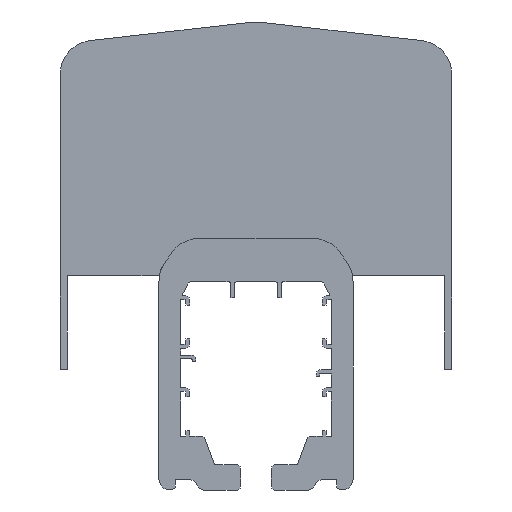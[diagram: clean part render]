
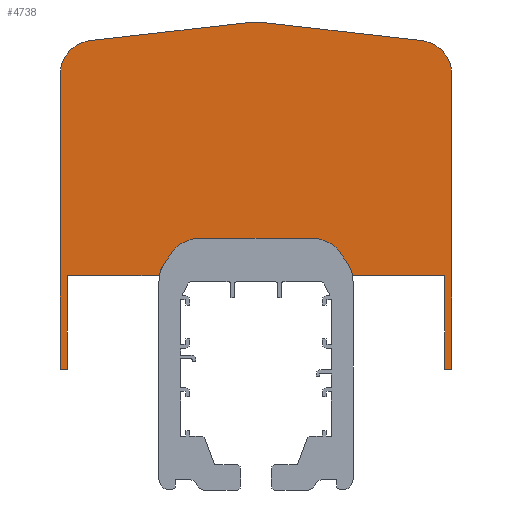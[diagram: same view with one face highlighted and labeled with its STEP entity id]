
A CAD part, front view. The second image highlights one B-rep face of the part: STEP entity #4738.
In plain terms, the highlighted planar face has unit normal (0, -1, 0).
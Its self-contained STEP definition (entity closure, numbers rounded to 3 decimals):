
#21=CIRCLE('',#4746,9.);
#23=CIRCLE('',#4751,9.);
#28=CIRCLE('',#4764,9.);
#151=CIRCLE('',#5038,9.1);
#153=CIRCLE('',#5045,9.5);
#155=CIRCLE('',#5049,11.251);
#157=CIRCLE('',#5053,9.5);
#1241=ORIENTED_EDGE('',*,*,#1302,.F.);
#1242=ORIENTED_EDGE('',*,*,#1752,.T.);
#1243=ORIENTED_EDGE('',*,*,#1755,.T.);
#1244=ORIENTED_EDGE('',*,*,#1758,.T.);
#1245=ORIENTED_EDGE('',*,*,#1761,.T.);
#1246=ORIENTED_EDGE('',*,*,#1764,.T.);
#1247=ORIENTED_EDGE('',*,*,#1767,.T.);
#1248=ORIENTED_EDGE('',*,*,#1770,.T.);
#1249=ORIENTED_EDGE('',*,*,#1773,.T.);
#1250=ORIENTED_EDGE('',*,*,#1776,.T.);
#1251=ORIENTED_EDGE('',*,*,#1737,.T.);
#1252=ORIENTED_EDGE('',*,*,#1741,.T.);
#1253=ORIENTED_EDGE('',*,*,#1744,.T.);
#1254=ORIENTED_EDGE('',*,*,#1747,.T.);
#1255=ORIENTED_EDGE('',*,*,#1750,.T.);
#1256=ORIENTED_EDGE('',*,*,#1272,.T.);
#1257=ORIENTED_EDGE('',*,*,#1275,.T.);
#1258=ORIENTED_EDGE('',*,*,#1262,.T.);
#1259=ORIENTED_EDGE('',*,*,#1266,.T.);
#1260=ORIENTED_EDGE('',*,*,#1269,.T.);
#1262=EDGE_CURVE('',#1780,#1779,#2123,.T.);
#1266=EDGE_CURVE('',#1779,#1783,#21,.T.);
#1269=EDGE_CURVE('',#1783,#1785,#2128,.T.);
#1272=EDGE_CURVE('',#1788,#1787,#2131,.T.);
#1275=EDGE_CURVE('',#1787,#1780,#23,.T.);
#1302=EDGE_CURVE('',#1809,#1785,#28,.F.);
#1737=EDGE_CURVE('',#2096,#2097,#2468,.T.);
#1741=EDGE_CURVE('',#2097,#2100,#2472,.T.);
#1744=EDGE_CURVE('',#2100,#2102,#2475,.T.);
#1747=EDGE_CURVE('',#2102,#2104,#2478,.T.);
#1750=EDGE_CURVE('',#2104,#1788,#151,.T.);
#1752=EDGE_CURVE('',#1809,#2106,#2481,.T.);
#1755=EDGE_CURVE('',#2106,#2108,#2484,.T.);
#1758=EDGE_CURVE('',#2108,#2110,#2487,.T.);
#1761=EDGE_CURVE('',#2110,#2112,#2490,.T.);
#1764=EDGE_CURVE('',#2112,#2114,#153,.T.);
#1767=EDGE_CURVE('',#2114,#2116,#2494,.T.);
#1770=EDGE_CURVE('',#2116,#2118,#155,.T.);
#1773=EDGE_CURVE('',#2118,#2120,#2498,.T.);
#1776=EDGE_CURVE('',#2120,#2096,#157,.T.);
#1779=VERTEX_POINT('',#6068);
#1780=VERTEX_POINT('',#6070);
#1783=VERTEX_POINT('',#6077);
#1785=VERTEX_POINT('',#6083);
#1787=VERTEX_POINT('',#6089);
#1788=VERTEX_POINT('',#6091);
#1809=VERTEX_POINT('',#6150);
#2096=VERTEX_POINT('',#7020);
#2097=VERTEX_POINT('',#7021);
#2100=VERTEX_POINT('',#7029);
#2102=VERTEX_POINT('',#7035);
#2104=VERTEX_POINT('',#7041);
#2106=VERTEX_POINT('',#7050);
#2108=VERTEX_POINT('',#7056);
#2110=VERTEX_POINT('',#7062);
#2112=VERTEX_POINT('',#7068);
#2114=VERTEX_POINT('',#7074);
#2116=VERTEX_POINT('',#7080);
#2118=VERTEX_POINT('',#7086);
#2120=VERTEX_POINT('',#7092);
#2123=LINE('',#6069,#2502);
#2128=LINE('',#6084,#2507);
#2131=LINE('',#6090,#2510);
#2468=LINE('',#7019,#2847);
#2472=LINE('',#7028,#2851);
#2475=LINE('',#7034,#2854);
#2478=LINE('',#7040,#2857);
#2481=LINE('',#7049,#2860);
#2484=LINE('',#7055,#2863);
#2487=LINE('',#7061,#2866);
#2490=LINE('',#7067,#2869);
#2494=LINE('',#7079,#2873);
#2498=LINE('',#7091,#2877);
#2502=VECTOR('',#5062,1000.);
#2507=VECTOR('',#5075,1000.);
#2510=VECTOR('',#5080,1000.);
#2847=VECTOR('',#5985,1000.);
#2851=VECTOR('',#5991,1000.);
#2854=VECTOR('',#5996,1000.);
#2857=VECTOR('',#6001,1000.);
#2860=VECTOR('',#6012,1000.);
#2863=VECTOR('',#6017,1000.);
#2866=VECTOR('',#6022,1000.);
#2869=VECTOR('',#6027,1000.);
#2873=VECTOR('',#6039,1000.);
#2877=VECTOR('',#6051,1000.);
#3054=EDGE_LOOP('',(#1241,#1242,#1243,#1244,#1245,#1246,#1247,#1248,#1249,
#1250,#1251,#1252,#1253,#1254,#1255,#1256,#1257,#1258,#1259,#1260));
#3229=FACE_BOUND('',#3054,.T.);
#3336=PLANE('',#5056);
#4738=ADVANCED_FACE('',(#3229),#3336,.F.);
#4746=AXIS2_PLACEMENT_3D('',#6078,#5068,#5069);
#4751=AXIS2_PLACEMENT_3D('',#6096,#5085,#5086);
#4764=AXIS2_PLACEMENT_3D('',#6151,#5133,#5134);
#5038=AXIS2_PLACEMENT_3D('',#7046,#6006,#6007);
#5045=AXIS2_PLACEMENT_3D('',#7073,#6032,#6033);
#5049=AXIS2_PLACEMENT_3D('',#7085,#6044,#6045);
#5053=AXIS2_PLACEMENT_3D('',#7097,#6056,#6057);
#5056=AXIS2_PLACEMENT_3D('',#7100,#6062,#6063);
#5062=DIRECTION('',(1.,0.,0.));
#5068=DIRECTION('',(0.,1.,0.));
#5069=DIRECTION('',(1.,0.,0.));
#5075=DIRECTION('',(0.588,0.,-0.809));
#5080=DIRECTION('',(0.588,0.,0.809));
#5085=DIRECTION('',(0.,1.,0.));
#5086=DIRECTION('',(1.,0.,0.));
#5133=DIRECTION('',(0.,1.,0.));
#5134=DIRECTION('',(0.,0.,1.));
#5985=DIRECTION('',(0.,0.,-1.));
#5991=DIRECTION('',(1.,0.,0.));
#5996=DIRECTION('',(0.,0.,1.));
#6001=DIRECTION('',(1.,0.,0.));
#6006=DIRECTION('',(0.,1.,0.));
#6007=DIRECTION('',(1.,0.,0.));
#6012=DIRECTION('',(1.,0.,0.));
#6017=DIRECTION('',(0.,0.,-1.));
#6022=DIRECTION('',(1.,0.,0.));
#6027=DIRECTION('',(0.,0.,1.));
#6032=DIRECTION('',(0.,-1.,0.));
#6033=DIRECTION('',(1.,0.,0.));
#6039=DIRECTION('',(-0.994,0.,0.113));
#6044=DIRECTION('',(0.,-1.,0.));
#6045=DIRECTION('',(1.,0.,0.));
#6051=DIRECTION('',(-0.994,0.,-0.113));
#6056=DIRECTION('',(0.,-1.,0.));
#6057=DIRECTION('',(1.,0.,0.));
#6062=DIRECTION('',(0.,1.,0.));
#6063=DIRECTION('',(0.,0.,1.));
#6068=CARTESIAN_POINT('',(15.914,-150.,12.109));
#6069=CARTESIAN_POINT('',(-15.914,-150.,12.109));
#6070=CARTESIAN_POINT('',(-15.914,-150.,12.109));
#6077=CARTESIAN_POINT('',(23.195,-150.,8.399));
#6078=CARTESIAN_POINT('',(15.914,-150.,3.109));
#6083=CARTESIAN_POINT('',(25.281,-150.,5.528));
#6084=CARTESIAN_POINT('',(25.281,-150.,5.528));
#6089=CARTESIAN_POINT('',(-23.195,-150.,8.399));
#6090=CARTESIAN_POINT('',(-23.195,-150.,8.399));
#6091=CARTESIAN_POINT('',(-25.281,-150.,5.528));
#6096=CARTESIAN_POINT('',(-15.914,-150.,3.109));
#6150=CARTESIAN_POINT('',(26.874,-150.,1.738));
#6151=CARTESIAN_POINT('',(18.,-150.,0.238));
#7019=CARTESIAN_POINT('',(-54.5,-150.,57.752));
#7020=CARTESIAN_POINT('',(-54.5,-150.,57.752));
#7021=CARTESIAN_POINT('',(-54.5,-150.,-24.262));
#7028=CARTESIAN_POINT('',(-54.5,-150.,-24.262));
#7029=CARTESIAN_POINT('',(-52.5,-150.,-24.262));
#7034=CARTESIAN_POINT('',(-52.5,-150.,-24.262));
#7035=CARTESIAN_POINT('',(-52.5,-150.,1.738));
#7040=CARTESIAN_POINT('',(-52.5,-150.,1.738));
#7041=CARTESIAN_POINT('',(-26.953,-150.,1.738));
#7046=CARTESIAN_POINT('',(-18.01,-150.,0.057));
#7049=CARTESIAN_POINT('',(52.5,-150.,1.738));
#7050=CARTESIAN_POINT('',(52.5,-150.,1.738));
#7055=CARTESIAN_POINT('',(52.5,-150.,-24.262));
#7056=CARTESIAN_POINT('',(52.5,-150.,-24.262));
#7061=CARTESIAN_POINT('',(52.5,-150.,-24.262));
#7062=CARTESIAN_POINT('',(54.5,-150.,-24.262));
#7067=CARTESIAN_POINT('',(54.5,-150.,-24.262));
#7068=CARTESIAN_POINT('',(54.5,-150.,57.755));
#7073=CARTESIAN_POINT('',(45.,-150.,57.752));
#7074=CARTESIAN_POINT('',(46.075,-150.,67.191));
#7079=CARTESIAN_POINT('',(1.274,-150.,72.296));
#7080=CARTESIAN_POINT('',(1.274,-150.,72.296));
#7085=CARTESIAN_POINT('',(0.,-150.,61.117));
#7086=CARTESIAN_POINT('',(-1.274,-150.,72.296));
#7091=CARTESIAN_POINT('',(-46.075,-150.,67.191));
#7092=CARTESIAN_POINT('',(-46.075,-150.,67.191));
#7097=CARTESIAN_POINT('',(-45.,-150.,57.752));
#7100=CARTESIAN_POINT('',(-18.01,-150.,0.057));
